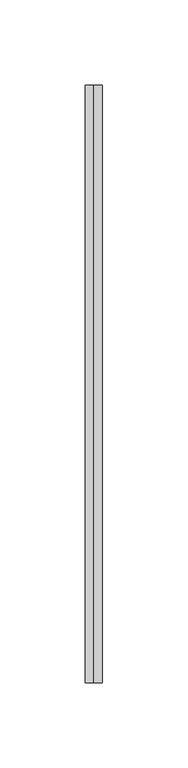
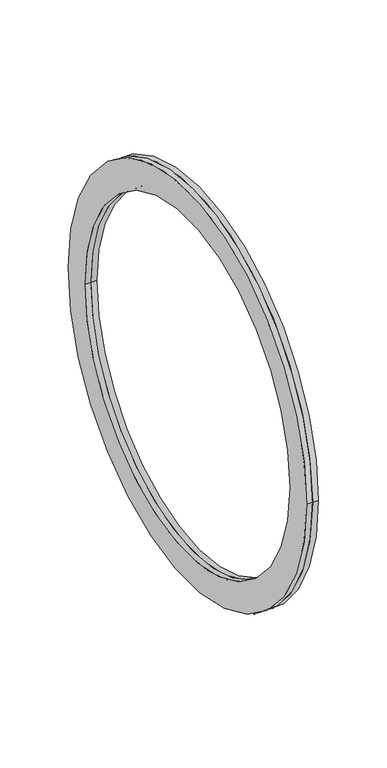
"""IFC4 building model written with IfcOpenShell, lengths in millimetres: duct fitting geometry, BL_ФланецВоздуховдов-Двойной_Круглый_БезКоннекторов : BL_ФланецВоздуховдов-Двойной_Круглый_БезКоннекторов."""

from ifc_helpers import new_model, si_unit, point, frame, frame_2d, origin, place, context, project, spatial, circle_curve, trimmed, segment, composite_curve, outline, extrude, source, transform, mapped, element, save


def duct_fitting_8ec2bed2(model_context):
    return source(origin(), model_context, "Body", "SweptSolid", [
        extrude(outline(composite_curve([segment(trimmed(circle_curve(frame_2d((-45.6742229, 0.0)), 175.0), [point((-220.6742229, 0.0))], [point((129.3257771, 0.0))], False, "CARTESIAN"), True, "CONTINUOUS"), segment(trimmed(circle_curve(frame_2d((-45.6742229, 0.0)), 175.0), [point((129.3257771, 0.0))], [point((-220.6742229, 0.0))], False, "CARTESIAN"), True, "CONTINUOUS")], self_intersect=False), holes=[composite_curve([segment(trimmed(circle_curve(frame_2d((-45.6742229, 0.0)), 150.0), [point((-195.6742229, 0.0))], [point((104.3257771, 0.0))], True, "CARTESIAN"), True, "CONTINUOUS"), segment(trimmed(circle_curve(frame_2d((-45.6742229, 0.0)), 150.0), [point((104.3257771, 0.0))], [point((-195.6742229, 0.0))], True, "CARTESIAN"), True, "CONTINUOUS")], self_intersect=False)]), frame((0.0, 0.0, 0.0), z_axis=(1.0, 0.0, 0.0), x_axis=(0.0, 1.0, 0.0)), (0.0, 0.0, 1.0), 5.0),
        extrude(outline(composite_curve([segment(trimmed(circle_curve(frame_2d((-45.6742229, 0.0)), 175.0), [point((-220.6742229, 0.0))], [point((129.3257771, 0.0))], False, "CARTESIAN"), True, "CONTINUOUS"), segment(trimmed(circle_curve(frame_2d((-45.6742229, 0.0)), 175.0), [point((129.3257771, 0.0))], [point((-220.6742229, 0.0))], False, "CARTESIAN"), True, "CONTINUOUS")], self_intersect=False), holes=[composite_curve([segment(trimmed(circle_curve(frame_2d((-45.6742229, 0.0)), 150.0), [point((-195.6742229, 0.0))], [point((104.3257771, 0.0))], True, "CARTESIAN"), True, "CONTINUOUS"), segment(trimmed(circle_curve(frame_2d((-45.6742229, 0.0)), 150.0), [point((104.3257771, 0.0))], [point((-195.6742229, 0.0))], True, "CARTESIAN"), True, "CONTINUOUS")], self_intersect=False)]), frame((-5.0, 0.0, 0.0), z_axis=(1.0, 0.0, 0.0), x_axis=(0.0, 1.0, 0.0)), (0.0, 0.0, 1.0), 5.0),
    ])


if __name__ == "__main__":
    model = new_model("IFC4")
    model_context = context("Model", 3, world=origin())
    ifc_project = project(units=[si_unit("LENGTHUNIT", "METRE", prefix="MILLI")], contexts=[model_context])
    site = spatial("IfcSite", under=ifc_project)
    building = spatial("IfcBuilding", under=site)
    placement = place(None, origin())
    duct_fitting_shape = duct_fitting_8ec2bed2(model_context)
    element("IfcDuctFitting", 1, ObjectType="BL_ФланецВоздуховдов-Двойной_Круглый_БезКоннекторов : BL_ФланецВоздуховдов-Двойной_Круглый_БезКоннекторов", at=placement, inside=building, context=model_context, shape_type="MappedRepresentation", body=[
        mapped(duct_fitting_shape, transform((0.0, 0.0, 0.0), x_axis=(1.0, 0.0, 0.0), y_axis=(0.0, 1.0, 0.0), z_axis=(0.0, 0.0, 1.0))),
    ])
    save(model, "model.ifc")
